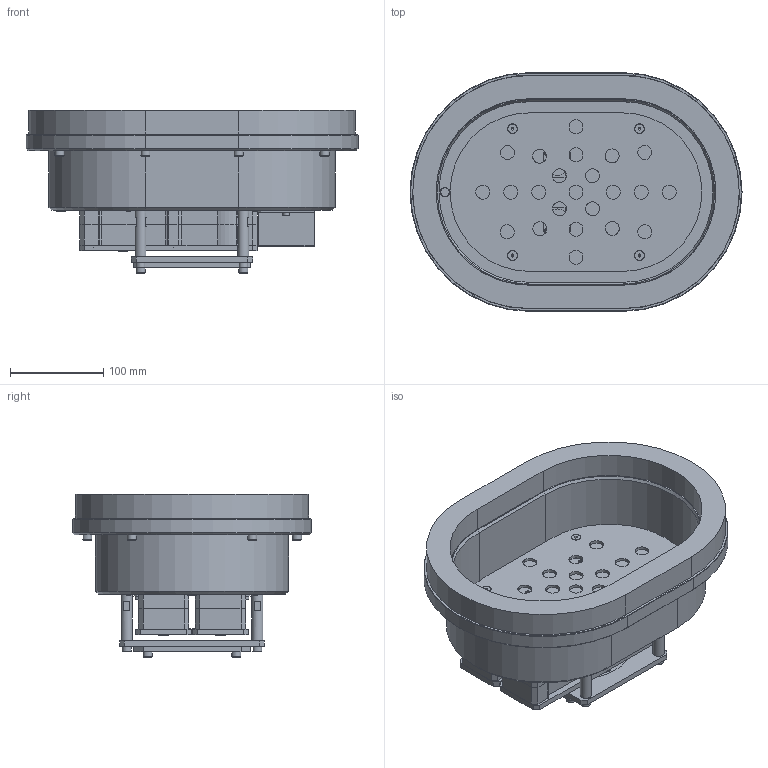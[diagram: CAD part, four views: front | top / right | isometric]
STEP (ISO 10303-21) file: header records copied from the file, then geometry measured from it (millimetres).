
FILE_DESCRIPTION(('STEP AP214'),'1');
FILE_NAME('SGP-H2B-250X350-CRT30.stp','2023-05-31T07:22:26',(' '),(' '),'Spatial InterOp 3D',' ',' ');
FILE_SCHEMA(('AUTOMOTIVE_DESIGN { 1 0 10303 214 1 1 1 1 }'));
Length unit declared in the file: millimetre
Products named in the file (127): SGP-H2B-250X350-CRT30; Body; SGP CVZ Assy; プラグ; SGP-_____; CTX-0418-3000; CTX-0418-3001; CTX-0418-3002; RTWS13; M4*45; _FCBS4-40-10; M4*45_____; SGP-000-3050(供給ベース); CVZ-015-3002; SGP-000-3101(Vフィルタ); SGP-000-3101(Vフィルタ押さえ板); _NKJ3-4; shaft 01; CBSTS6-12; Stopper; Base; CB6; ねじ : 穴付き - M6.0 x 12.0; Ring; Pad; ねじ: 穴付き - M6.0 x 10.0; SETGR12-50; Cover; CB4; ねじ: 穴付き - M4.0 x 8.0; FL____B; _SGP-FL-B-f
Assembly tree (126 placements, depth 5):
  SGP-H2B-250X350-CRT30
    Body
    SGP CVZ Assy
      プラグ
      SGP-_____
        CTX-0418-3000
        CTX-0418-3001
        CTX-0418-3002
        CTX-0418-3002
        RTWS13
      SGP-_____
        CTX-0418-3000
        CTX-0418-3001
        CTX-0418-3002
        CTX-0418-3002
        RTWS13
      M4*45_____
        M4*45
          _FCBS4-40-10
        M4*45
          _FCBS4-40-10
        M4*45
          _FCBS4-40-10
        M4*45
          _FCBS4-40-10
        M4*45
          _FCBS4-40-10
        M4*45
          _FCBS4-40-10
      SGP-000-3050(供給ベース)
      CVZ-015-3002
      CVZ-015-3002
    SGP CVZ Assy
      プラグ
      SGP-_____
        CTX-0418-3000
        CTX-0418-3001
        CTX-0418-3002
        CTX-0418-3002
        RTWS13
      SGP-_____
        CTX-0418-3000
        CTX-0418-3001
        CTX-0418-3002
        CTX-0418-3002
        RTWS13
      M4*45_____
        M4*45
          _FCBS4-40-10
        M4*45
          _FCBS4-40-10
        M4*45
          _FCBS4-40-10
        M4*45
          _FCBS4-40-10
        M4*45
          _FCBS4-40-10
        M4*45
          _FCBS4-40-10
      SGP-000-3050(供給ベース)
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Bounding box: 356 x 256 x 174.82 mm (x, y, z)
Volume: 2513116.3 mm3; surface area: 900292.3 mm2
Topology: 90 solids, 90 shells, 2048 faces, 4855 edges, 3178 vertices
Faces by surface type: plane 1153, cylinder 686, cone 177, torus 24, sphere 8
Full cylindrical faces by diameter (mm): 1.5 x8, 2.693 x8, 3 x24, 3.5 x16, 4 x50, 4.4 x4, 4.5 x24, 4.917 x4, 5 x10, 6 x42, 6.6 x15, 6.9 x2, 7 x28, 9 x8, 9.4 x4, 9.87 x16, 10 x12, 10.5 x4, 11 x10, 11.4 x4, 11.8 x4, 12 x18, 13 x20, 13.6 x8, 13.85 x8, 14.5 x8, 14.8 x4, 15 x39, 16 x8, 20 x5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
Entity records: 76626 total; most frequent: CARTESIAN_POINT 10579, DIRECTION 10156, ORIENTED_EDGE 8134, EDGE_CURVE 4067, AXIS2_PLACEMENT_3D 3934, EDGE_LOOP 3318, VERTEX_POINT 3045, FACE_OUTER_BOUND 2500
